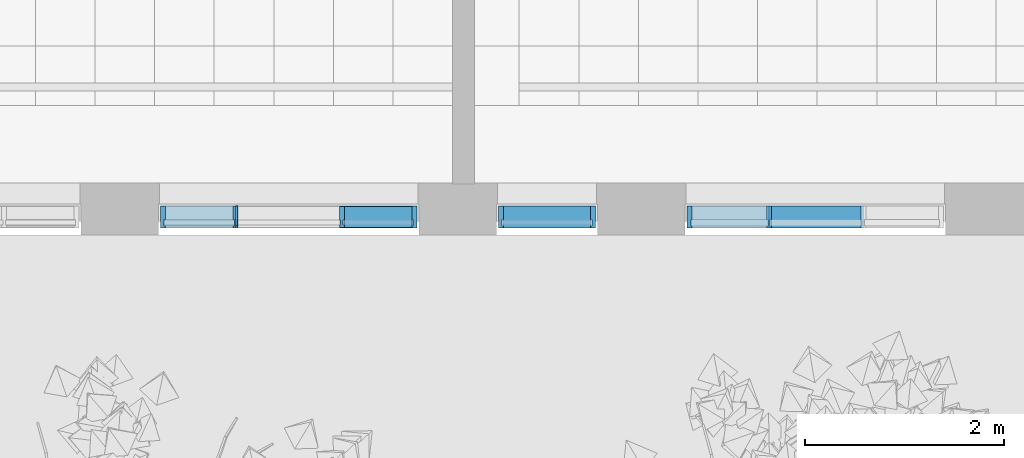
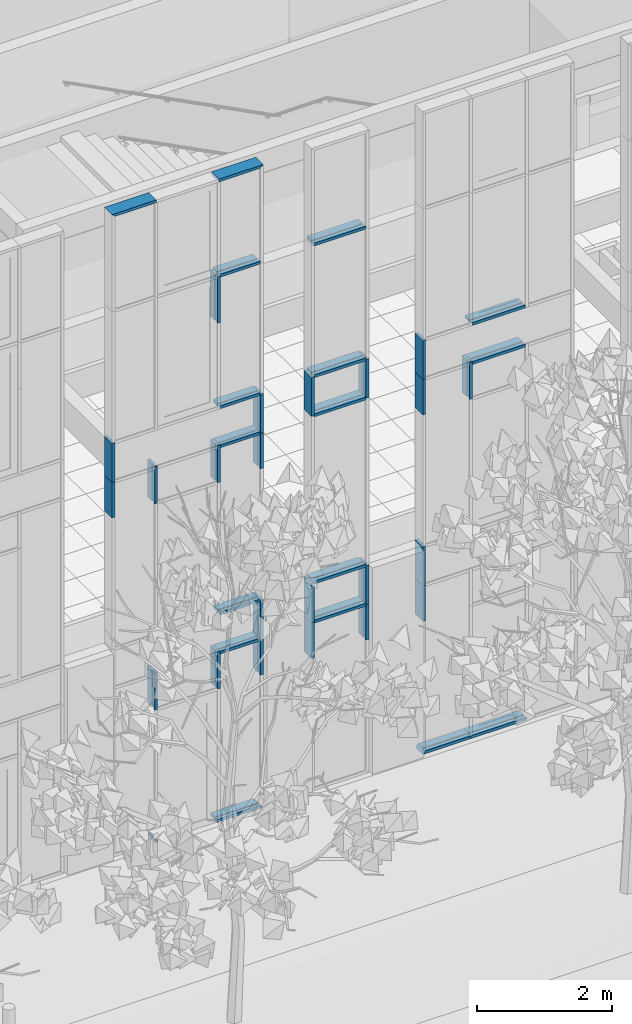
# One storey, part 42 of 246: 40 members, 3 elements without a shape of their own.
"""IFC2X3 building model written with IfcOpenShell, lengths in millimetres."""

from ifc_helpers import new_model, entity, si_unit, converted_unit, derived_unit, money_unit, direction, frame, origin_with_axes, place, context, subcontext, project, spatial, faceted_brep, source, transform, mapped, material, type_object, element, aggregate, save


model = new_model("IFC2X3")

# Units and contexts
model_context = context("Model", 3, precision=0.01, world=origin_with_axes(), true_north=direction((0.0, 1.0)))
body_context = subcontext(model_context, "Body", "Model", "MODEL_VIEW")
ifc_project = project(units=[si_unit("LENGTHUNIT", "METRE", prefix="MILLI"), si_unit("AREAUNIT", "SQUARE_METRE"), si_unit("VOLUMEUNIT", "CUBIC_METRE"), converted_unit("PLANEANGLEUNIT", "DEGREE", entity("IfcPlaneAngleMeasure", 0.0174532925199), si_unit("PLANEANGLEUNIT", "RADIAN"), dimensions=[0, 0, 0, 0, 0, 0, 0]), si_unit("SOLIDANGLEUNIT", "STERADIAN"), money_unit("EUR"), converted_unit("TIMEUNIT", "Year", entity("IfcTimeMeasure", 31556926.0), si_unit("TIMEUNIT", "SECOND"), dimensions=[0, 0, 1, 0, 0, 0, 0]), si_unit("MASSUNIT", "GRAM", prefix="KILO"), si_unit("THERMODYNAMICTEMPERATUREUNIT", "DEGREE_CELSIUS"), si_unit("LUMINOUSINTENSITYUNIT", "LUMEN"), si_unit("ENERGYUNIT", "JOULE", prefix="MEGA"), derived_unit("THERMALCONDUCTANCEUNIT", [(si_unit("POWERUNIT", "WATT"), 1), (si_unit("LENGTHUNIT", "METRE"), -1), (si_unit("THERMODYNAMICTEMPERATUREUNIT", "KELVIN"), -1)]), derived_unit("SPECIFICHEATCAPACITYUNIT", [(si_unit("ENERGYUNIT", "JOULE"), 1), (si_unit("MASSUNIT", "GRAM", prefix="KILO"), -1), (si_unit("THERMODYNAMICTEMPERATUREUNIT", "KELVIN"), -1)]), derived_unit("MASSDENSITYUNIT", [(si_unit("MASSUNIT", "GRAM", prefix="KILO"), 1), (si_unit("VOLUMEUNIT", "CUBIC_METRE"), -1)])], contexts=[model_context])

# Site, building, storey
site_placement = place(None, origin_with_axes())
site = spatial("IfcSite", under=ifc_project, at=site_placement, Name="L.Koidula tn 11b", CompositionType="ELEMENT")
building_placement = place(site_placement, origin_with_axes())
building = spatial("IfcBuilding", under=site, at=building_placement, Name="Rakvere Riigigümnaasium", CompositionType="ELEMENT")
storey_placement = place(building_placement, origin_with_axes())
storey = spatial("IfcBuildingStorey", under=building, at=storey_placement, Name="1.korrus 0,00", CompositionType="ELEMENT", Elevation=0.0)

# Curtain wall, members
curtain_wall_type = type_object("IfcCurtainWallType", Name="Curtain Wall Type", PredefinedType="NOTDEFINED")
curtain_wall_1_placement = place(storey_placement, frame((75600.000125, 5111.45334637, -1.61944652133e-05), z_axis=(0.0, 0.0, 1.0), x_axis=(1.0, 0.0, 0.0)))
curtain_wall_1 = element("IfcCurtainWall", 1, at=curtain_wall_1_placement, inside=storey, type_object=curtain_wall_type, Name="KLF-05-4B")
ifc_material = material(Name="Alumiiniumprofiil (RAL 7021)")
member_type_1 = type_object("IfcMemberType", Name="Boundary Frame 50 x 222", PredefinedType="MULLION")
shared_shape_1 = source(origin_with_axes(), body_context, "Body", "Brep", [
    faceted_brep([(37.0, -32.5, 705.000000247), (37.0, 32.5, 705.000000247), (50.0, 32.5, 705.000000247), (50.0, 53.0, 705.000000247), (0.0, 53.0, 705.000000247), (0.0, -169.0, 705.000000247), (50.0, -169.0, 705.000000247), (50.0, -32.5, 705.000000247), (37.0, -32.5, 0.0), (37.0, 32.5, 0.0), (50.0, 32.5, 0.0), (50.0, 53.0, 0.0), (0.0, 53.0, 0.0), (0.0, -169.0, 0.0), (50.0, -169.0, 0.0), (50.0, -32.5, 0.0)], [[[0, 1, 2, 3, 4, 5, 6, 7]], [[1, 0, 8, 9]], [[10, 2, 1, 9]], [[2, 10, 11, 3]], [[12, 4, 3, 11]], [[13, 5, 4, 12]], [[14, 6, 5, 13]], [[15, 7, 6, 14]], [[0, 7, 15, 8]], [[8, 15, 14, 13, 12, 11, 10, 9]]]),
])
member_1_placement = place(curtain_wall_1_placement, frame((490.000170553, 0.0, 6760.0), z_axis=(0.0, 0.0, 1.0), x_axis=(-1.0, 0.0, 0.0)))
member_1 = element("IfcMember", 2, at=member_1_placement, type_object=member_type_1, material=ifc_material, Name="KLF-10", ObjectType="MULLION", context=body_context, shape_type="MappedRepresentation", body=[
    mapped(shared_shape_1, transform((0.0, 0.0, 0.0))),
])
member_2_placement = place(curtain_wall_1_placement, frame((490.000170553, 0.0, 3040.0), z_axis=(0.0, 0.0, 1.0), x_axis=(-1.0, 0.0, 0.0)))
member_2 = element("IfcMember", 3, at=member_2_placement, type_object=member_type_1, material=ifc_material, Name="KLF-08", ObjectType="MULLION", context=body_context, shape_type="MappedRepresentation", body=[
    mapped(shared_shape_1, transform((0.0, 0.0, 0.0))),
])

curtain_wall_2_placement = place(storey_placement, frame((72896.908541, 5111.45334637, -8.09717227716e-06), z_axis=(0.0, 0.0, 1.0), x_axis=(1.0, 0.0, 0.0)))
curtain_wall_2 = element("IfcCurtainWall", 4, at=curtain_wall_2_placement, inside=storey, type_object=curtain_wall_type, Name="KLF-05-3B")
member_3_placement = place(curtain_wall_2_placement, frame((-1186.90888468, 0.0, 7465.0), z_axis=(2.44971087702e-07, 0.0, -1.0), x_axis=(1.0, 0.0, 2.44971087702e-07)))
member_3 = element("IfcMember", 5, at=member_3_placement, type_object=member_type_1, material=ifc_material, Name="KLF-05-6A-Profiilid", ObjectType="MULLION", context=body_context, shape_type="MappedRepresentation", body=[
    mapped(shared_shape_1, transform((0.0, 0.0, 0.0))),
])
member_4_placement = place(curtain_wall_2_placement, frame((1393.0913307, 0.0, 6760.0), z_axis=(0.0, 0.0, 1.0), x_axis=(-1.0, 0.0, 0.0)))
member_4 = element("IfcMember", 6, at=member_4_placement, type_object=member_type_1, material=ifc_material, Name="KLF-05-8A-Profiilid", ObjectType="MULLION", context=body_context, shape_type="MappedRepresentation", body=[
    mapped(shared_shape_1, transform((0.0, 0.0, 0.0))),
])
member_5_placement = place(curtain_wall_2_placement, frame((1393.0913307, 0.0, 3040.0), z_axis=(0.0, 0.0, 1.0), x_axis=(-1.0, 0.0, 0.0)))
member_5 = element("IfcMember", 7, at=member_5_placement, type_object=member_type_1, material=ifc_material, Name="KLF-05-5A-Profiilid", ObjectType="MULLION", context=body_context, shape_type="MappedRepresentation", body=[
    mapped(shared_shape_1, transform((0.0, 0.0, 0.0))),
])

# Member
shared_shape_2 = source(origin_with_axes(), body_context, "Body", "Brep", [
    faceted_brep([(37.0, -32.5, 640.0), (37.0, 32.5, 640.0), (50.0, 32.5, 640.0), (50.0, 53.0, 640.0), (0.0, 53.0, 640.0), (0.0, -169.0, 640.0), (50.0, -169.0, 640.0), (50.0, -32.5, 640.0), (37.0, -32.5, 0.0), (37.0, 32.5, 0.0), (50.0, 32.5, 0.0), (50.0, 53.0, 0.0), (0.0, 53.0, 0.0), (0.0, -169.0, 0.0), (50.0, -169.0, 0.0), (50.0, -32.5, 0.0)], [[[0, 1, 2, 3, 4, 5, 6, 7]], [[1, 0, 8, 9]], [[10, 2, 1, 9]], [[2, 10, 11, 3]], [[12, 4, 3, 11]], [[13, 5, 4, 12]], [[14, 6, 5, 13]], [[15, 7, 6, 14]], [[0, 7, 15, 8]], [[8, 15, 14, 13, 12, 11, 10, 9]]]),
])
member_6_placement = place(curtain_wall_1_placement, frame((490.000170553, 0.0, 2400.0), z_axis=(0.0, 0.0, 1.0), x_axis=(-1.0, 0.0, 0.0)))
member_6 = element("IfcMember", 8, at=member_6_placement, type_object=member_type_1, material=ifc_material, Name="KLF-07", ObjectType="MULLION", context=body_context, shape_type="MappedRepresentation", body=[
    mapped(shared_shape_2, transform((0.0, 0.0, 0.0))),
])

member_7_placement = place(curtain_wall_2_placement, frame((-1186.90871197, 0.0, 6760.0), z_axis=(0.0, 0.0, -1.0), x_axis=(1.0, 0.0, 0.0)))
member_7 = element("IfcMember", 9, at=member_7_placement, type_object=member_type_1, material=ifc_material, Name="KLF-05-7A-Profiilid", ObjectType="MULLION", context=body_context, shape_type="MappedRepresentation", body=[
    mapped(shared_shape_2, transform((0.0, 0.0, 0.0))),
])

member_8_placement = place(curtain_wall_2_placement, frame((1393.09127348, 0.0, 6120.0), z_axis=(8.94070373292e-08, 0.0, 1.0), x_axis=(-1.0, 0.0, 8.94070373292e-08)))
member_8 = element("IfcMember", 10, at=member_8_placement, type_object=member_type_1, material=ifc_material, Name="KLF-05-7A-Profiilid", ObjectType="MULLION", context=body_context, shape_type="MappedRepresentation", body=[
    mapped(shared_shape_2, transform((0.0, 0.0, 0.0))),
])

member_9_placement = place(curtain_wall_2_placement, frame((1393.09127348, 0.0, 2400.0), z_axis=(8.94070373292e-08, 0.0, 1.0), x_axis=(-1.0, 0.0, 8.94070373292e-08)))
member_9 = element("IfcMember", 11, at=member_9_placement, type_object=member_type_1, material=ifc_material, Name="KLF-05-4A-Profiilid", ObjectType="MULLION", context=body_context, shape_type="MappedRepresentation", body=[
    mapped(shared_shape_2, transform((0.0, 0.0, 0.0))),
])

shared_shape_3 = source(origin_with_axes(), body_context, "Body", "Brep", [
    faceted_brep([(-37.0, -32.5, 705.0), (-50.0, -32.5, 705.0), (-50.0, -169.0, 705.0), (0.0, -169.0, 705.0), (0.0, 53.0, 705.0), (-50.0, 53.0, 705.0), (-50.0, 32.5, 705.0), (-37.0, 32.5, 705.0), (-37.0, -32.5, 0.0), (-50.0, -32.5, 0.0), (-50.0, -169.0, 0.0), (0.0, -169.0, 0.0), (0.0, 53.0, 0.0), (-50.0, 53.0, 0.0), (-50.0, 32.5, 0.0), (-37.0, 32.5, 0.0)], [[[0, 1, 2, 3, 4, 5, 6, 7]], [[0, 8, 9, 1]], [[9, 10, 2, 1]], [[10, 11, 3, 2]], [[11, 12, 4, 3]], [[12, 13, 5, 4]], [[6, 5, 13, 14]], [[14, 15, 7, 6]], [[7, 15, 8, 0]], [[8, 15, 14, 13, 12, 11, 10, 9]]]),
])
member_10_placement = place(curtain_wall_1_placement, frame((-490.000127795, 0.0, 3040.0), z_axis=(0.0, 0.0, 1.0), x_axis=(-1.0, 0.0, 0.0)))
member_10 = element("IfcMember", 12, at=member_10_placement, type_object=member_type_1, material=ifc_material, Name="KLF-18", ObjectType="MULLION", context=body_context, shape_type="MappedRepresentation", body=[
    mapped(shared_shape_3, transform((0.0, 0.0, 0.0))),
])

member_11_placement = place(curtain_wall_1_placement, frame((-490.000127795, 0.0, 6760.0), z_axis=(0.0, 0.0, 1.0), x_axis=(-1.0, 0.0, 0.0)))
member_11 = element("IfcMember", 13, at=member_11_placement, type_object=member_type_1, material=ifc_material, Name="KLF-16", ObjectType="MULLION", context=body_context, shape_type="MappedRepresentation", body=[
    mapped(shared_shape_3, transform((0.0, 0.0, 0.0))),
])

# Curtain wall, members
curtain_wall_3_placement = place(storey_placement, frame((78309.9973345, 5111.43278481, -1.61944633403e-05), z_axis=(0.0, 0.0, 1.0), x_axis=(1.0, 0.0, 0.0)))
curtain_wall_3 = element("IfcCurtainWall", 14, at=curtain_wall_3_placement, inside=storey, type_object=curtain_wall_type, Name="KLF-05-3A")
member_12_placement = place(curtain_wall_3_placement, frame((-1299.99999984, 0.0205615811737, 3040.0), z_axis=(0.0, 0.0, 1.0), x_axis=(-0.999999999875, 1.58166009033e-05, 0.0)))
member_12 = element("IfcMember", 15, at=member_12_placement, type_object=member_type_1, material=ifc_material, Name="KLF-05-1A-Profiilid", ObjectType="MULLION", context=body_context, shape_type="MappedRepresentation", body=[
    mapped(shared_shape_3, transform((0.0, 0.0, 0.0))),
])
member_13_placement = place(curtain_wall_3_placement, frame((-1299.99999984, 0.0205615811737, 6760.0), z_axis=(0.0, 0.0, 1.0), x_axis=(-0.999999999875, 1.58166009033e-05, 0.0)))
member_13 = element("IfcMember", 16, at=member_13_placement, type_object=member_type_1, material=ifc_material, Name="KLF-05-8A-Profiilid", ObjectType="MULLION", context=body_context, shape_type="MappedRepresentation", body=[
    mapped(shared_shape_3, transform((0.0, 0.0, 0.0))),
])

# Member
shared_shape_4 = source(origin_with_axes(), body_context, "Body", "Brep", [
    faceted_brep([(-37.0, -32.5, 640.0), (-50.0, -32.5, 640.0), (-50.0, -169.0, 640.0), (0.0, -169.0, 640.0), (0.0, 53.0, 640.0), (-50.0, 53.0, 640.0), (-50.0, 32.5, 640.0), (-37.0, 32.5, 640.0), (-37.0, -32.5, 0.0), (-50.0, -32.5, 0.0), (-50.0, -169.0, 0.0), (0.0, -169.0, 0.0), (0.0, 53.0, 0.0), (-50.0, 53.0, 0.0), (-50.0, 32.5, 0.0), (-37.0, 32.5, 0.0)], [[[0, 1, 2, 3, 4, 5, 6, 7]], [[0, 8, 9, 1]], [[9, 10, 2, 1]], [[10, 11, 3, 2]], [[11, 12, 4, 3]], [[12, 13, 5, 4]], [[6, 5, 13, 14]], [[14, 15, 7, 6]], [[7, 15, 8, 0]], [[8, 15, 14, 13, 12, 11, 10, 9]]]),
])
member_14_placement = place(curtain_wall_1_placement, frame((-490.000127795, 0.0, 2400.0), z_axis=(0.0, 0.0, 1.0), x_axis=(-1.0, 0.0, 0.0)))
member_14 = element("IfcMember", 17, at=member_14_placement, type_object=member_type_1, material=ifc_material, Name="KLF-19", ObjectType="MULLION", context=body_context, shape_type="MappedRepresentation", body=[
    mapped(shared_shape_4, transform((0.0, 0.0, 0.0))),
])

member_15_placement = place(curtain_wall_3_placement, frame((-1299.99999984, 0.0205615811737, 2400.0), z_axis=(0.0, 0.0, 1.0), x_axis=(-0.999999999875, 1.58166009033e-05, 0.0)))
member_15 = element("IfcMember", 18, at=member_15_placement, type_object=member_type_1, material=ifc_material, Name="KLF-05-2A-Profiilid", ObjectType="MULLION", context=body_context, shape_type="MappedRepresentation", body=[
    mapped(shared_shape_4, transform((0.0, 0.0, 0.0))),
])

member_16_placement = place(curtain_wall_3_placement, frame((-1299.99999984, 0.0205615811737, 6120.0), z_axis=(0.0, 0.0, 1.0), x_axis=(-0.999999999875, 1.58166009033e-05, 0.0)))
member_16 = element("IfcMember", 19, at=member_16_placement, type_object=member_type_1, material=ifc_material, Name="KLF-05-9A-Profiilid", ObjectType="MULLION", context=body_context, shape_type="MappedRepresentation", body=[
    mapped(shared_shape_4, transform((0.0, 0.0, 0.0))),
])

member_type_2 = type_object("IfcMemberType", Name="Transom Frame 50 x 222", PredefinedType="MULLION")
shared_shape_5 = source(origin_with_axes(), body_context, "Body", "Brep", [
    faceted_brep([(-12.0, -32.5, 925.0), (-25.0, -32.5, 925.0), (-25.0, -169.0, 925.0), (25.0, -169.0, 925.0), (25.0, -32.5, 925.0), (12.0, -32.5, 925.0), (12.0, 32.5, 925.0), (25.0, 32.5, 925.0), (25.0, 53.0, 925.0), (-25.0, 53.0, 925.0), (-25.0, 32.5, 925.0), (-12.0, 32.5, 925.0), (-12.0, -32.5, 25.0), (-25.0, -32.5, 25.0), (-25.0, -169.0, 25.0), (25.0, -169.0, 25.0), (25.0, -32.5, 25.0), (12.0, -32.5, 25.0), (12.0, 32.5, 25.0), (25.0, 32.5, 25.0), (25.0, 53.0, 25.0), (-25.0, 53.0, 25.0), (-25.0, 32.5, 25.0), (-12.0, 32.5, 25.0)], [[[0, 1, 2, 3, 4, 5, 6, 7, 8, 9, 10, 11]], [[1, 0, 12, 13]], [[1, 13, 14, 2]], [[2, 14, 15, 3]], [[4, 3, 15, 16]], [[4, 16, 17, 5]], [[5, 17, 18, 6]], [[7, 6, 18, 19]], [[19, 20, 8, 7]], [[8, 20, 21, 9]], [[22, 10, 9, 21]], [[11, 10, 22, 23]], [[0, 11, 23, 12]], [[23, 22, 21, 20, 19, 18, 17, 16, 15, 14, 13, 12]]]),
])
member_17_placement = place(curtain_wall_3_placement, frame((-474.999999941, 0.00751288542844, 7465.0), z_axis=(0.999999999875, -1.58166009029e-05, 0.0), x_axis=(0.0, 0.0, 1.0)))
member_17 = element("IfcMember", 20, at=member_17_placement, type_object=member_type_2, material=ifc_material, Name="KLF-05-3A-Profiilid", ObjectType="MULLION", context=body_context, shape_type="MappedRepresentation", body=[
    mapped(shared_shape_5, transform((0.0, 0.0, 0.0))),
])

member_18_placement = place(curtain_wall_3_placement, frame((-474.999999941, 0.00751288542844, 6760.0), z_axis=(0.999999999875, -1.58166009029e-05, 0.0), x_axis=(0.0, 0.0, 1.0)))
member_18 = element("IfcMember", 21, at=member_18_placement, type_object=member_type_2, material=ifc_material, Name="KLF-05-3A-Profiilid", ObjectType="MULLION", context=body_context, shape_type="MappedRepresentation", body=[
    mapped(shared_shape_5, transform((0.0, 0.0, 0.0))),
])

member_type_3 = type_object("IfcMemberType", Name="Mullion Frame 50 x 222", PredefinedType="MULLION")
shared_shape_6 = source(origin_with_axes(), body_context, "Body", "Brep", [
    faceted_brep([(-12.0, -32.5, 665.0), (-25.0, -32.5, 665.0), (-25.0, -169.0, 665.0), (25.0, -169.0, 665.0), (25.0, -32.5, 665.0), (12.0, -32.5, 665.0), (12.0, 32.5, 665.0), (25.0, 32.5, 665.0), (25.0, 53.0, 665.0), (-25.0, 53.0, 665.0), (-25.0, 32.5, 665.0), (-12.0, 32.5, 665.0), (-12.0, -32.5, 0.0), (-25.0, -32.5, 0.0), (-25.0, -169.0, 0.0), (25.0, -169.0, 0.0), (25.0, -32.5, 0.0), (12.0, -32.5, 0.0), (12.0, 32.5, 0.0), (25.0, 32.5, 0.0), (25.0, 53.0, 0.0), (-25.0, 53.0, 0.0), (-25.0, 32.5, 0.0), (-12.0, 32.5, 0.0)], [[[0, 1, 2, 3, 4, 5, 6, 7, 8, 9, 10, 11]], [[1, 0, 12, 13]], [[1, 13, 14, 2]], [[3, 2, 14, 15]], [[4, 3, 15, 16]], [[4, 16, 17, 5]], [[5, 17, 18, 6]], [[7, 6, 18, 19]], [[19, 20, 8, 7]], [[9, 8, 20, 21]], [[22, 10, 9, 21]], [[11, 10, 22, 23]], [[0, 11, 23, 12]], [[23, 22, 21, 20, 19, 18, 17, 16, 15, 14, 13, 12]]]),
])
member_19_placement = place(curtain_wall_3_placement, frame((-474.999999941, 0.00751288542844, 6120.0), z_axis=(0.0, 0.0, 1.0), x_axis=(-0.999999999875, 1.58166009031e-05, 0.0)))
member_19 = element("IfcMember", 22, at=member_19_placement, type_object=member_type_3, material=ifc_material, Name="KLF-05-3A-Profiilid", ObjectType="MULLION", context=body_context, shape_type="MappedRepresentation", body=[
    mapped(shared_shape_6, transform((0.0, 0.0, 0.0))),
])

member_20_placement = place(curtain_wall_2_placement, frame((-431.908628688, 0.0, 2400.0), z_axis=(0.0, 0.0, 1.0), x_axis=(-1.0, 0.0, 0.0)))
member_20 = element("IfcMember", 23, at=member_20_placement, type_object=member_type_3, material=ifc_material, Name="KLF-05-1A-Profiilid", ObjectType="MULLION", context=body_context, shape_type="MappedRepresentation", body=[
    mapped(shared_shape_6, transform((0.0, 0.0, 0.0))),
])

member_21_placement = place(curtain_wall_2_placement, frame((-431.908628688, 0.0, 6120.0), z_axis=(0.0, 0.0, 1.0), x_axis=(-1.0, 0.0, 0.0)))
member_21 = element("IfcMember", 24, at=member_21_placement, type_object=member_type_3, material=ifc_material, Name="KLF-05-8A-Profiilid", ObjectType="MULLION", context=body_context, shape_type="MappedRepresentation", body=[
    mapped(shared_shape_6, transform((0.0, 0.0, 0.0))),
])

member_type_4 = type_object("IfcMemberType", Name="50 x 208", PredefinedType="MULLION")
shared_shape_7 = source(origin_with_axes(), body_context, "Body", "Brep", [
    faceted_brep([(-12.0, -27.0, 665.0), (-25.0, -27.0, 665.0), (-25.0, -160.0, 665.0), (25.0, -160.0, 665.0), (25.0, -27.0, 665.0), (12.0, -27.0, 665.0), (12.0, 27.0, 665.0), (25.0, 27.0, 665.0), (25.0, 48.0, 665.0), (-25.0, 48.0, 665.0), (-25.0, 27.0, 665.0), (-12.0, 27.0, 665.0), (-12.0, -27.0, 0.0), (-25.0, -27.0, 0.0), (-25.0, -160.0, 0.0), (25.0, -160.0, 0.0), (25.0, -27.0, 0.0), (12.0, -27.0, 0.0), (12.0, 27.0, 0.0), (25.0, 27.0, 0.0), (25.0, 48.0, 0.0), (-25.0, 48.0, 0.0), (-25.0, 27.0, 0.0), (-12.0, 27.0, 0.0)], [[[0, 1, 2, 3, 4, 5, 6, 7, 8, 9, 10, 11]], [[1, 0, 12, 13]], [[1, 13, 14, 2]], [[3, 2, 14, 15]], [[4, 3, 15, 16]], [[4, 16, 17, 5]], [[5, 17, 18, 6]], [[7, 6, 18, 19]], [[19, 20, 8, 7]], [[9, 8, 20, 21]], [[22, 10, 9, 21]], [[11, 10, 22, 23]], [[0, 11, 23, 12]], [[23, 22, 21, 20, 19, 18, 17, 16, 15, 14, 13, 12]]]),
])
member_22_placement = place(curtain_wall_2_placement, frame((638.091371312, 0.0, 2400.0), z_axis=(0.0, 0.0, 1.0), x_axis=(-1.0, 0.0, 0.0)))
member_22 = element("IfcMember", 25, at=member_22_placement, type_object=member_type_4, material=ifc_material, Name="KLF-41", ObjectType="MULLION", context=body_context, shape_type="MappedRepresentation", body=[
    mapped(shared_shape_7, transform((0.0, 0.0, 0.0))),
])

member_23_placement = place(curtain_wall_2_placement, frame((638.091371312, 0.0, 6120.0), z_axis=(0.0, 0.0, 1.0), x_axis=(-1.0, 0.0, 0.0)))
member_23 = element("IfcMember", 26, at=member_23_placement, type_object=member_type_4, material=ifc_material, Name="KLF-96", ObjectType="MULLION", context=body_context, shape_type="MappedRepresentation", body=[
    mapped(shared_shape_7, transform((0.0, 0.0, 0.0))),
])

shared_shape_8 = source(origin_with_axes(), body_context, "Body", "Brep", [
    faceted_brep([(-12.0, -27.0, 704.999959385), (-25.0, -27.0, 704.999959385), (-25.0, -160.0, 704.999959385), (25.0, -160.0, 704.999959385), (25.0, -27.0, 704.999959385), (12.0, -27.0, 704.999959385), (12.0, 27.0, 704.999959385), (25.0, 27.0, 704.999959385), (25.0, 48.0, 704.999959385), (-25.0, 48.0, 704.999959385), (-25.0, 27.0, 704.999959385), (-12.0, 27.0, 704.999959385), (-12.0, -27.0, 25.0), (-25.0, -27.0, 25.0), (-25.0, -160.0, 25.0), (25.0, -160.0, 25.0), (25.0, -27.0, 25.0), (12.0, -27.0, 25.0), (12.0, 27.0, 25.0), (25.0, 27.0, 25.0), (25.0, 48.0, 25.0), (-25.0, 48.0, 25.0), (-25.0, 27.0, 25.0), (-12.0, 27.0, 25.0)], [[[0, 1, 2, 3, 4, 5, 6, 7, 8, 9, 10, 11]], [[1, 0, 12, 13]], [[1, 13, 14, 2]], [[2, 14, 15, 3]], [[4, 3, 15, 16]], [[4, 16, 17, 5]], [[5, 17, 18, 6]], [[7, 6, 18, 19]], [[19, 20, 8, 7]], [[8, 20, 21, 9]], [[22, 10, 9, 21]], [[11, 10, 22, 23]], [[0, 11, 23, 12]], [[23, 22, 21, 20, 19, 18, 17, 16, 15, 14, 13, 12]]]),
])
member_24_placement = place(curtain_wall_2_placement, frame((638.091371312, 0.0, 7465.0), z_axis=(1.0, 0.0, 0.0), x_axis=(0.0, 0.0, 1.0)))
member_24 = element("IfcMember", 27, at=member_24_placement, type_object=member_type_4, material=ifc_material, Name="KLF-57", ObjectType="MULLION", context=body_context, shape_type="MappedRepresentation", body=[
    mapped(shared_shape_8, transform((0.0, 0.0, 0.0))),
])

member_25_placement = place(curtain_wall_2_placement, frame((638.091371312, 0.0, 6760.0), z_axis=(1.0, 0.0, 0.0), x_axis=(0.0, 0.0, 1.0)))
member_25 = element("IfcMember", 28, at=member_25_placement, type_object=member_type_4, material=ifc_material, Name="KLF-33", ObjectType="MULLION", context=body_context, shape_type="MappedRepresentation", body=[
    mapped(shared_shape_8, transform((0.0, 0.0, 0.0))),
])

member_26_placement = place(curtain_wall_2_placement, frame((638.091371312, 0.0, 3745.0), z_axis=(1.0, 0.0, 0.0), x_axis=(0.0, 0.0, 1.0)))
member_26 = element("IfcMember", 29, at=member_26_placement, type_object=member_type_4, material=ifc_material, Name="KLF-08", ObjectType="MULLION", context=body_context, shape_type="MappedRepresentation", body=[
    mapped(shared_shape_8, transform((0.0, 0.0, 0.0))),
])

member_27_placement = place(curtain_wall_2_placement, frame((638.091371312, 0.0, 3040.0), z_axis=(1.0, 0.0, 0.0), x_axis=(0.0, 0.0, 1.0)))
member_27 = element("IfcMember", 30, at=member_27_placement, type_object=member_type_4, material=ifc_material, Name="KLF-09", ObjectType="MULLION", context=body_context, shape_type="MappedRepresentation", body=[
    mapped(shared_shape_8, transform((0.0, 0.0, 0.0))),
])

shared_shape_9 = source(origin_with_axes(), body_context, "Body", "Brep", [
    faceted_brep([(-12.0, -32.5, 930.000298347), (-25.0, -32.5, 930.000298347), (-25.0, -169.0, 930.000298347), (25.0, -169.0, 930.000298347), (25.0, -32.5, 930.000298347), (12.0, -32.5, 930.000298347), (12.0, 32.5, 930.000298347), (25.0, 32.5, 930.000298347), (25.0, 53.0, 930.000298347), (-25.0, 53.0, 930.000298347), (-25.0, 32.5, 930.000298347), (-12.0, 32.5, 930.000298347), (-12.0, -32.5, 50.0), (-25.0, -32.5, 50.0), (-25.0, -169.0, 50.0), (25.0, -169.0, 50.0), (25.0, -32.5, 50.0), (12.0, -32.5, 50.0), (12.0, 32.5, 50.0), (25.0, 32.5, 50.0), (25.0, 53.0, 50.0), (-25.0, 53.0, 50.0), (-25.0, 32.5, 50.0), (-12.0, 32.5, 50.0)], [[[0, 1, 2, 3, 4, 5, 6, 7, 8, 9, 10, 11]], [[1, 0, 12, 13]], [[1, 13, 14, 2]], [[2, 14, 15, 3]], [[4, 3, 15, 16]], [[4, 16, 17, 5]], [[5, 17, 18, 6]], [[7, 6, 18, 19]], [[19, 20, 8, 7]], [[8, 20, 21, 9]], [[22, 10, 9, 21]], [[11, 10, 22, 23]], [[0, 11, 23, 12]], [[23, 22, 21, 20, 19, 18, 17, 16, 15, 14, 13, 12]]]),
])
member_28_placement = place(curtain_wall_1_placement, frame((-490.000127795, 0.0, 3040.0), z_axis=(1.0, 0.0, 0.0), x_axis=(0.0, 0.0, 1.0)))
member_28 = element("IfcMember", 31, at=member_28_placement, type_object=member_type_2, material=ifc_material, Name="KLF-39", ObjectType="MULLION", context=body_context, shape_type="MappedRepresentation", body=[
    mapped(shared_shape_9, transform((0.0, 0.0, 0.0))),
])

member_29_placement = place(curtain_wall_1_placement, frame((-490.000127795, 0.0, 9840.0), z_axis=(1.0, 0.0, 0.0), x_axis=(0.0, 0.0, 1.0)))
member_29 = element("IfcMember", 32, at=member_29_placement, type_object=member_type_2, material=ifc_material, Name="KLF-50", ObjectType="MULLION", context=body_context, shape_type="MappedRepresentation", body=[
    mapped(shared_shape_9, transform((0.0, 0.0, 0.0))),
])

member_30_placement = place(curtain_wall_1_placement, frame((-490.000127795, 0.0, 7465.0), z_axis=(1.0, 0.0, 0.0), x_axis=(0.0, 0.0, 1.0)))
member_30 = element("IfcMember", 33, at=member_30_placement, type_object=member_type_2, material=ifc_material, Name="KLF-51", ObjectType="MULLION", context=body_context, shape_type="MappedRepresentation", body=[
    mapped(shared_shape_9, transform((0.0, 0.0, 0.0))),
])

member_31_placement = place(curtain_wall_1_placement, frame((-490.000127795, 0.0, 6760.0), z_axis=(1.0, 0.0, 0.0), x_axis=(0.0, 0.0, 1.0)))
member_31 = element("IfcMember", 34, at=member_31_placement, type_object=member_type_2, material=ifc_material, Name="KLF-52", ObjectType="MULLION", context=body_context, shape_type="MappedRepresentation", body=[
    mapped(shared_shape_9, transform((0.0, 0.0, 0.0))),
])

member_32_placement = place(curtain_wall_1_placement, frame((-490.000127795, 0.0, 3745.0), z_axis=(1.0, 0.0, 0.0), x_axis=(0.0, 0.0, 1.0)))
member_32 = element("IfcMember", 35, at=member_32_placement, type_object=member_type_2, material=ifc_material, Name="KLF-67", ObjectType="MULLION", context=body_context, shape_type="MappedRepresentation", body=[
    mapped(shared_shape_9, transform((0.0, 0.0, 0.0))),
])

aggregate(curtain_wall_1, [member_14, member_10, member_11, member_28, member_29, member_30, member_31, member_1, member_32, member_2, member_6])

shared_shape_10 = source(origin_with_axes(), body_context, "Body", "Brep", [
    faceted_brep([(-12.0, -32.5, 840.0), (-25.0, -32.5, 840.0), (-25.0, -169.0, 840.0), (25.0, -169.0, 840.0), (25.0, -32.5, 840.0), (12.0, -32.5, 840.0), (12.0, 32.5, 840.0), (25.0, 32.5, 840.0), (25.0, 53.0, 840.0), (-25.0, 53.0, 840.0), (-25.0, 32.5, 840.0), (-12.0, 32.5, 840.0), (-12.0, -32.5, 0.0), (-25.0, -32.5, 0.0), (-25.0, -169.0, 0.0), (25.0, -169.0, 0.0), (25.0, -32.5, 0.0), (12.0, -32.5, 0.0), (12.0, 32.5, 0.0), (25.0, 32.5, 0.0), (25.0, 53.0, 0.0), (-25.0, 53.0, 0.0), (-25.0, 32.5, 0.0), (-12.0, 32.5, 0.0)], [[[0, 1, 2, 3, 4, 5, 6, 7, 8, 9, 10, 11]], [[1, 0, 12, 13]], [[1, 13, 14, 2]], [[3, 2, 14, 15]], [[4, 3, 15, 16]], [[4, 16, 17, 5]], [[5, 17, 18, 6]], [[7, 6, 18, 19]], [[19, 20, 8, 7]], [[9, 8, 20, 21]], [[22, 10, 9, 21]], [[11, 10, 22, 23]], [[0, 11, 23, 12]], [[23, 22, 21, 20, 19, 18, 17, 16, 15, 14, 13, 12]]]),
])
member_33_placement = place(curtain_wall_2_placement, frame((638.091371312, 0.0, 9000.0), z_axis=(0.0, 0.0, 1.0), x_axis=(-1.0, 0.0, 0.0)))
member_33 = element("IfcMember", 36, at=member_33_placement, type_object=member_type_3, material=ifc_material, Name="KLF-05-3A-Profiilid", ObjectType="MULLION", context=body_context, shape_type="MappedRepresentation", body=[
    mapped(shared_shape_10, transform((0.0, 0.0, 0.0))),
])

shared_shape_11 = source(origin_with_axes(), body_context, "Body", "Brep", [
    faceted_brep([(37.0, -32.5, 950.0), (37.0, 32.5, 950.0), (50.0, 32.5, 950.0), (50.0, 53.0, 950.0), (0.0, 53.0, 950.0), (0.0, -169.0, 950.0), (50.0, -169.0, 950.0), (50.0, -32.5, 950.0), (37.0, -32.5, 0.0), (37.0, 32.5, 0.0), (50.0, 32.5, 0.0), (50.0, 53.0, 0.0), (0.0, 53.0, 0.0), (0.0, -169.0, 0.0), (50.0, -169.0, 0.0), (50.0, -32.5, 0.0)], [[[0, 1, 2, 3, 4, 5, 6, 7]], [[1, 0, 8, 9]], [[10, 2, 1, 9]], [[2, 10, 11, 3]], [[12, 4, 3, 11]], [[13, 5, 4, 12]], [[14, 6, 5, 13]], [[15, 7, 6, 14]], [[0, 7, 15, 8]], [[8, 15, 14, 13, 12, 11, 10, 9]]]),
])
member_34_placement = place(curtain_wall_3_placement, frame((-474.999999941, 0.00751288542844, 0.0), z_axis=(0.999999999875, -1.58166009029e-05, 0.0), x_axis=(0.0, 0.0, 1.0)))
member_34 = element("IfcMember", 37, at=member_34_placement, type_object=member_type_1, material=ifc_material, Name="KLF-05-3A-Profiilid", ObjectType="MULLION", context=body_context, shape_type="MappedRepresentation", body=[
    mapped(shared_shape_11, transform((0.0, 0.0, 0.0))),
])

shared_shape_12 = source(origin_with_axes(), body_context, "Body", "Brep", [
    faceted_brep([(37.0, -32.5, 755.000083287), (37.0, 32.5, 755.000083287), (50.0, 32.5, 755.000083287), (50.0, 53.0, 755.000083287), (0.0, 53.0, 755.000083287), (0.0, -169.0, 755.000083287), (50.0, -169.0, 755.000083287), (50.0, -32.5, 755.000083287), (37.0, -32.5, 37.0), (37.0, 32.5, 37.0), (50.0, 32.5, 50.0), (50.0, 53.0, 50.0), (0.0, 53.0, 0.0), (0.0, -169.0, 0.0), (50.0, -169.0, 50.0), (50.0, -32.5, 50.0)], [[[0, 1, 2, 3, 4, 5, 6, 7]], [[1, 0, 8, 9]], [[10, 2, 1, 9]], [[2, 10, 11, 3]], [[4, 3, 11, 12]], [[5, 4, 12, 13]], [[6, 5, 13, 14]], [[15, 7, 6, 14]], [[0, 7, 15, 8]], [[8, 15, 14, 13, 12, 11, 10, 9]]]),
])
member_35_placement = place(curtain_wall_2_placement, frame((1393.09130904, 0.0, 11590.0000411), z_axis=(-1.0, 0.0, 0.0), x_axis=(0.0, 0.0, -1.0)))
member_35 = element("IfcMember", 38, at=member_35_placement, type_object=member_type_1, material=ifc_material, Name="KLF-05-1A-Profiilid", ObjectType="MULLION", context=body_context, shape_type="MappedRepresentation", body=[
    mapped(shared_shape_12, transform((0.0, 0.0, 0.0))),
])

shared_shape_13 = source(origin_with_axes(), body_context, "Body", "Brep", [
    faceted_brep([(37.0, -32.5, 825.0), (37.0, 32.5, 825.0), (50.0, 32.5, 825.0), (50.0, 53.0, 825.0), (0.0, 53.0, 825.0), (0.0, -169.0, 825.0), (50.0, -169.0, 825.0), (50.0, -32.5, 825.0), (37.0, -32.5, 37.0), (37.0, 32.5, 37.0), (50.0, 32.5, 50.0), (50.0, 53.0, 50.0), (0.0, 53.0, 0.0), (0.0, -169.0, 0.0), (50.0, -169.0, 50.0), (50.0, -32.5, 50.0)], [[[0, 1, 2, 3, 4, 5, 6, 7]], [[1, 0, 8, 9]], [[10, 2, 1, 9]], [[2, 10, 11, 3]], [[4, 3, 11, 12]], [[5, 4, 12, 13]], [[6, 5, 13, 14]], [[15, 7, 6, 14]], [[0, 7, 15, 8]], [[8, 15, 14, 13, 12, 11, 10, 9]]]),
])
member_36_placement = place(curtain_wall_3_placement, frame((-1299.99999984, 0.0205615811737, 0.0), z_axis=(0.999999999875, -1.58166009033e-05, 0.0), x_axis=(0.0, 0.0, 1.0)))
member_36 = element("IfcMember", 39, at=member_36_placement, type_object=member_type_1, material=ifc_material, Name="KLF-05-2A-Profiilid", ObjectType="MULLION", context=body_context, shape_type="MappedRepresentation", body=[
    mapped(shared_shape_13, transform((0.0, 0.0, 0.0))),
])

aggregate(curtain_wall_3, [member_34, member_36, member_17, member_19, member_18, member_15, member_12, member_16, member_13])

shared_shape_14 = source(origin_with_axes(), body_context, "Body", "Brep", [
    faceted_brep([(37.0, -32.5, 19.5432673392), (37.0, 32.5, 19.5432673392), (50.0, 32.5, 19.5432673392), (50.0, 53.0, 19.5432673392), (0.0, 53.0, 19.5432673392), (0.0, -169.0, 19.5432673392), (50.0, -169.0, 19.5432673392), (50.0, -32.5, 19.5432673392), (37.0, -32.5, 0.0), (37.0, 32.5, 0.0), (50.0, 32.5, 0.0), (50.0, 53.0, 0.0), (0.0, 53.0, 0.0), (0.0, -169.0, 0.0), (50.0, -169.0, 0.0), (50.0, -32.5, 0.0)], [[[0, 1, 2, 3, 4, 5, 6, 7]], [[1, 0, 8, 9]], [[10, 2, 1, 9]], [[2, 10, 11, 3]], [[12, 4, 3, 11]], [[13, 5, 4, 12]], [[14, 6, 5, 13]], [[15, 7, 6, 14]], [[0, 7, 15, 8]], [[8, 15, 14, 13, 12, 11, 10, 9]]]),
])
member_37_placement = place(curtain_wall_2_placement, frame((-431.908628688, 0.0, 0.0), z_axis=(1.0, 0.0, 0.0), x_axis=(0.0, 0.0, 1.0)))
member_37 = element("IfcMember", 40, at=member_37_placement, type_object=member_type_1, material=ifc_material, Name="KLF-05-1A-Profiilid", ObjectType="MULLION", context=body_context, shape_type="MappedRepresentation", body=[
    mapped(shared_shape_14, transform((0.0, 0.0, 0.0))),
])

shared_shape_15 = source(origin_with_axes(), body_context, "Body", "Brep", [
    faceted_brep([(37.0, -27.0, 717.999958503), (37.0, 27.0, 717.999958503), (50.0, 27.0, 704.999958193), (50.0, 48.0, 704.999958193), (0.0, 48.0, 754.999959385), (0.0, -160.0, 754.999959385), (50.0, -160.0, 704.999958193), (50.0, -27.0, 704.999958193), (37.0, -27.0, -25.0), (37.0, 27.0, -25.0), (50.0, 27.0, -25.0), (50.0, 48.0, -25.0), (0.0, 48.0, -25.0), (0.0, -160.0, -25.0), (50.0, -160.0, -25.0), (50.0, -27.0, -25.0)], [[[0, 1, 2, 3, 4, 5, 6, 7]], [[1, 0, 8, 9]], [[10, 2, 1, 9]], [[2, 10, 11, 3]], [[12, 4, 3, 11]], [[13, 5, 4, 12]], [[14, 6, 5, 13]], [[15, 7, 6, 14]], [[0, 7, 15, 8]], [[8, 15, 14, 13, 12, 11, 10, 9]]]),
])
member_38_placement = place(curtain_wall_2_placement, frame((638.091371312, 0.0, 0.0), z_axis=(1.0, 0.0, 0.0), x_axis=(0.0, 0.0, 1.0)))
member_38 = element("IfcMember", 41, at=member_38_placement, type_object=member_type_4, material=ifc_material, Name="KLF-55", ObjectType="MULLION", context=body_context, shape_type="MappedRepresentation", body=[
    mapped(shared_shape_15, transform((0.0, 0.0, 0.0))),
])

shared_shape_16 = source(origin_with_axes(), body_context, "Body", "Brep", [
    faceted_brep([(-12.0, -32.5, 704.99994074), (-25.0, -32.5, 704.99994074), (-25.0, -169.0, 704.999939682), (25.0, -169.0, 704.999939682), (25.0, -32.5, 704.99994074), (12.0, -32.5, 704.99994074), (12.0, 32.5, 704.999941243), (25.0, 32.5, 704.999941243), (25.0, 53.0, 704.999941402), (-25.0, 53.0, 704.999941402), (-25.0, 32.5, 704.999941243), (-12.0, 32.5, 704.999941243), (-12.0, -32.5, 25.0), (-25.0, -32.5, 25.0), (-25.0, -169.0, 25.0), (25.0, -169.0, 25.0), (25.0, -32.5, 25.0), (12.0, -32.5, 25.0), (12.0, 32.5, 25.0), (25.0, 32.5, 25.0), (25.0, 53.0, 25.0), (-25.0, 53.0, 25.0), (-25.0, 32.5, 25.0), (-12.0, 32.5, 25.0)], [[[0, 1, 2, 3, 4, 5, 6, 7, 8, 9, 10, 11]], [[1, 0, 12, 13]], [[1, 13, 14, 2]], [[2, 14, 15, 3]], [[4, 3, 15, 16]], [[4, 16, 17, 5]], [[5, 17, 18, 6]], [[7, 6, 18, 19]], [[19, 20, 8, 7]], [[8, 20, 21, 9]], [[22, 10, 9, 21]], [[11, 10, 22, 23]], [[0, 11, 23, 12]], [[23, 22, 21, 20, 19, 18, 17, 16, 15, 14, 13, 12]]]),
])
member_39_placement = place(curtain_wall_2_placement, frame((638.091371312, 0.0, 9840.0), z_axis=(1.0, 0.0, 0.0), x_axis=(0.0, 0.0, 1.0)))
member_39 = element("IfcMember", 42, at=member_39_placement, type_object=member_type_2, material=ifc_material, Name="KLF-05-1A-Profiilid", ObjectType="MULLION", context=body_context, shape_type="MappedRepresentation", body=[
    mapped(shared_shape_16, transform((0.0, 0.0, 0.0))),
])

shared_shape_17 = source(origin_with_axes(), body_context, "Body", "Brep", [
    faceted_brep([(37.0, -32.5, 718.000273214), (37.0, 32.5, 718.000273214), (50.0, 32.5, 705.000273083), (50.0, 53.0, 705.000273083), (0.0, 53.0, 755.000273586), (0.0, -169.0, 755.000273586), (50.0, -169.0, 705.000273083), (50.0, -32.5, 705.000273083), (37.0, -32.5, 0.0), (37.0, 32.5, 0.0), (50.0, 32.5, 0.0), (50.0, 53.0, 0.0), (0.0, 53.0, 0.0), (0.0, -169.0, 0.0), (50.0, -169.0, 0.0), (50.0, -32.5, 0.0)], [[[0, 1, 2, 3, 4, 5, 6, 7]], [[1, 0, 8, 9]], [[10, 2, 1, 9]], [[2, 10, 11, 3]], [[12, 4, 3, 11]], [[13, 5, 4, 12]], [[14, 6, 5, 13]], [[15, 7, 6, 14]], [[0, 7, 15, 8]], [[8, 15, 14, 13, 12, 11, 10, 9]]]),
])
member_40_placement = place(curtain_wall_2_placement, frame((-431.908628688, 0.0, 11590.0000411), z_axis=(-1.0, 0.0, 0.0), x_axis=(0.0, 0.0, -1.0)))
member_40 = element("IfcMember", 43, at=member_40_placement, type_object=member_type_1, material=ifc_material, Name="KLF-05-3A-Profiilid", ObjectType="MULLION", context=body_context, shape_type="MappedRepresentation", body=[
    mapped(shared_shape_17, transform((0.0, 0.0, 0.0))),
])

aggregate(curtain_wall_2, [member_22, member_23, member_33, member_20, member_21, member_37, member_24, member_25, member_26, member_27, member_38, member_7, member_3, member_39, member_4, member_8, member_5, member_9, member_40, member_35])

save(model, "model.ifc")
